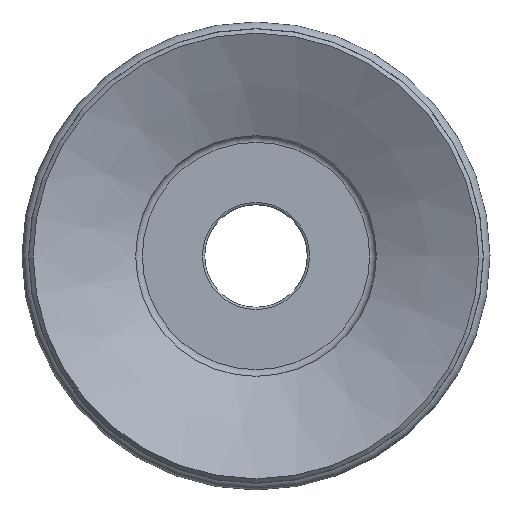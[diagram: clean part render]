
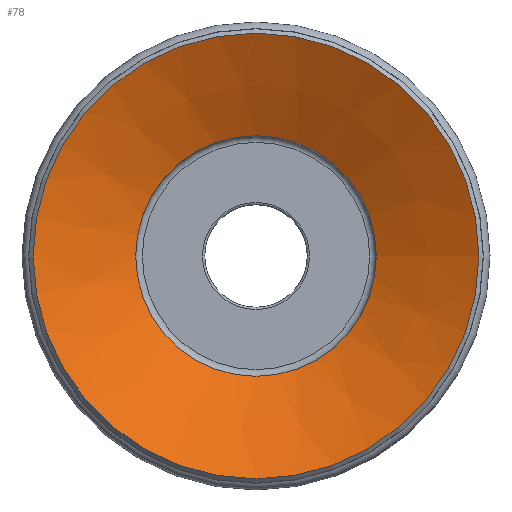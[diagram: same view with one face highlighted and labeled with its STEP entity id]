
A CAD part, front view. The second image highlights one B-rep face of the part: STEP entity #78.
In plain terms, the highlighted conical face has half-angle 63 degrees and reference radius 5.4 mm.
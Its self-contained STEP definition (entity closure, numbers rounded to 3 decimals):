
#78=ADVANCED_FACE('',(#103,#104),#105,.F.);
#103=FACE_OUTER_BOUND('',#157,.T.);
#104=FACE_BOUND('',#158,.T.);
#105=CONICAL_SURFACE('',#159,5.4,1.1);
#157=EDGE_LOOP('',(#217));
#158=EDGE_LOOP('',(#218));
#159=AXIS2_PLACEMENT_3D('',#219,#220,#221);
#217=ORIENTED_EDGE('',*,*,#298,.T.);
#218=ORIENTED_EDGE('',*,*,#297,.F.);
#219=CARTESIAN_POINT('',(0.0,5.518,0.0));
#220=DIRECTION('',(-0.0,-1.0,0.));
#221=DIRECTION('',(0.0,0.,-1.0));
#297=EDGE_CURVE('',#320,#320,#321,.T.);
#298=EDGE_CURVE('',#322,#322,#323,.T.);
#320=VERTEX_POINT('',#356);
#321=CIRCLE('',#357,5.4);
#322=VERTEX_POINT('',#358);
#323=CIRCLE('',#359,10.0);
#356=CARTESIAN_POINT('',(5.4,5.518,0.0));
#357=AXIS2_PLACEMENT_3D('',#397,#398,#399);
#358=CARTESIAN_POINT('',(10.0,3.175,0.0));
#359=AXIS2_PLACEMENT_3D('',#400,#401,#402);
#397=CARTESIAN_POINT('',(0.0,5.518,0.0));
#398=DIRECTION('',(0.0,-1.0,0.));
#399=DIRECTION('',(0.0,0.,-1.0));
#400=CARTESIAN_POINT('',(0.0,3.175,0.0));
#401=DIRECTION('',(0.0,-1.0,0.));
#402=DIRECTION('',(0.0,0.,-1.0));
